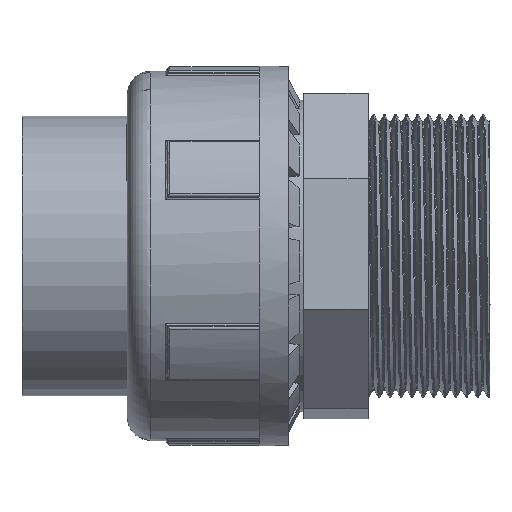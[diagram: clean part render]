
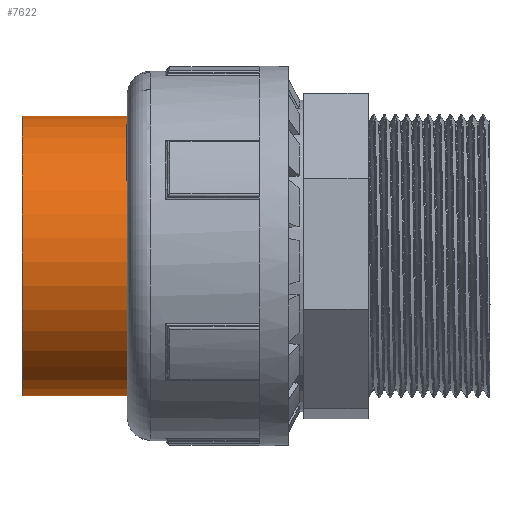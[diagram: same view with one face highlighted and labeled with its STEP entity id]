
A CAD part, front view. The second image highlights one B-rep face of the part: STEP entity #7622.
In plain terms, the highlighted cylindrical face has radius 29.5 mm (diameter 59 mm), a full revolution.
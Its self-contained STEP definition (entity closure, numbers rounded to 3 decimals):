
#2172=FACE_BOUND('',#2729,.T.);
#2249=FACE_OUTER_BOUND('',#2728,.T.);
#2728=EDGE_LOOP('',(#5433));
#2729=EDGE_LOOP('',(#5434));
#3172=CIRCLE('',#8180,29.5);
#3173=CIRCLE('',#8182,29.5);
#3427=VERTEX_POINT('',#21668);
#3428=VERTEX_POINT('',#21671);
#4196=EDGE_CURVE('',#3427,#3427,#3172,.T.);
#4197=EDGE_CURVE('',#3428,#3428,#3173,.T.);
#5433=ORIENTED_EDGE('',*,*,#4197,.F.);
#5434=ORIENTED_EDGE('',*,*,#4196,.T.);
#7527=CYLINDRICAL_SURFACE('',#8181,29.5);
#7622=ADVANCED_FACE('',(#2249,#2172),#7527,.T.);
#8180=AXIS2_PLACEMENT_3D('',#21669,#8920,#8921);
#8181=AXIS2_PLACEMENT_3D('',#21670,#8922,#8923);
#8182=AXIS2_PLACEMENT_3D('',#21672,#8924,#8925);
#8920=DIRECTION('center_axis',(-1.,0.,0.));
#8921=DIRECTION('ref_axis',(0.,0.,1.));
#8922=DIRECTION('center_axis',(-1.,0.,0.));
#8923=DIRECTION('ref_axis',(0.,-1.,0.));
#8924=DIRECTION('center_axis',(-1.,0.,0.));
#8925=DIRECTION('ref_axis',(0.,0.,1.));
#21668=CARTESIAN_POINT('',(26.5,-29.5,0.));
#21669=CARTESIAN_POINT('Origin',(26.5,0.,0.));
#21670=CARTESIAN_POINT('Origin',(13.25,0.,0.));
#21671=CARTESIAN_POINT('',(0.,-29.5,0.));
#21672=CARTESIAN_POINT('Origin',(0.,0.,0.));
